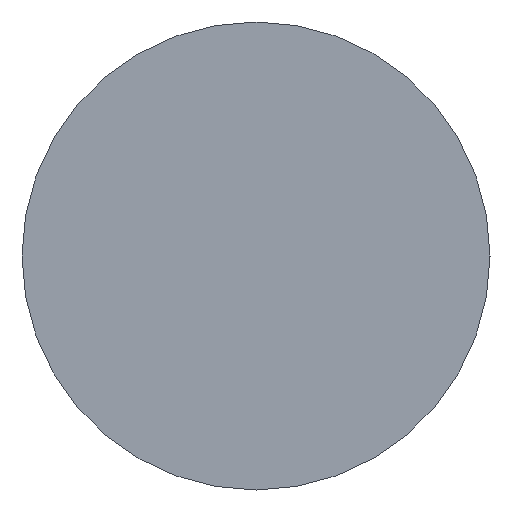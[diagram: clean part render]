
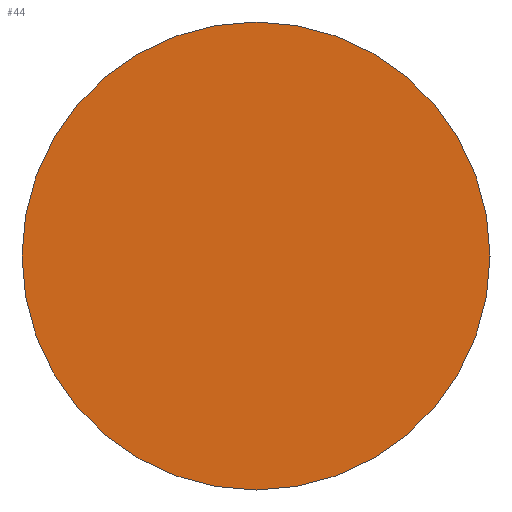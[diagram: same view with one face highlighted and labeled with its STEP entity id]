
A CAD part, left-side view. The second image highlights one B-rep face of the part: STEP entity #44.
In plain terms, the highlighted planar face has unit normal (-1, 0, 0).
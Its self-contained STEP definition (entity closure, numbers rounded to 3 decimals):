
#2 = DIRECTION ( 'NONE',  ( -1., 0., 0. ) ) ;
#44 = ADVANCED_FACE ( 'NONE', ( #278 ), #209, .F. ) ;
#46 = DIRECTION ( 'NONE',  ( 0., 0., 1. ) ) ;
#61 = DIRECTION ( 'NONE',  ( -1., 0., 0. ) ) ;
#66 = ORIENTED_EDGE ( 'NONE', *, *, #170, .T. ) ;
#151 = CARTESIAN_POINT ( 'NONE',  ( -130., 9., 0. ) ) ;
#170 = EDGE_CURVE ( 'NONE', #239, #191, #383, .T. ) ;
#179 = DIRECTION ( 'NONE',  ( 0., 0., -1. ) ) ;
#191 = VERTEX_POINT ( 'NONE', #302 ) ;
#209 = PLANE ( 'NONE',  #362 ) ;
#214 = CARTESIAN_POINT ( 'NONE',  ( -130., 0., 0. ) ) ;
#235 = AXIS2_PLACEMENT_3D ( 'NONE', #214, #2, #405 ) ;
#239 = VERTEX_POINT ( 'NONE', #457 ) ;
#244 = EDGE_LOOP ( 'NONE', ( #344, #66 ) ) ;
#259 = AXIS2_PLACEMENT_3D ( 'NONE', #380, #61, #46 ) ;
#278 = FACE_OUTER_BOUND ( 'NONE', #244, .T. ) ;
#285 = DIRECTION ( 'NONE',  ( 1., 0., 0. ) ) ;
#302 = CARTESIAN_POINT ( 'NONE',  ( -130., 0., 9. ) ) ;
#344 = ORIENTED_EDGE ( 'NONE', *, *, #423, .T. ) ;
#362 = AXIS2_PLACEMENT_3D ( 'NONE', #151, #285, #179 ) ;
#380 = CARTESIAN_POINT ( 'NONE',  ( -130., 0., 0. ) ) ;
#383 = CIRCLE ( 'NONE', #259, 9. ) ;
#405 = DIRECTION ( 'NONE',  ( 0., 0., 1. ) ) ;
#423 = EDGE_CURVE ( 'NONE', #191, #239, #450, .T. ) ;
#450 = CIRCLE ( 'NONE', #235, 9. ) ;
#457 = CARTESIAN_POINT ( 'NONE',  ( -130., 0., -9. ) ) ;
